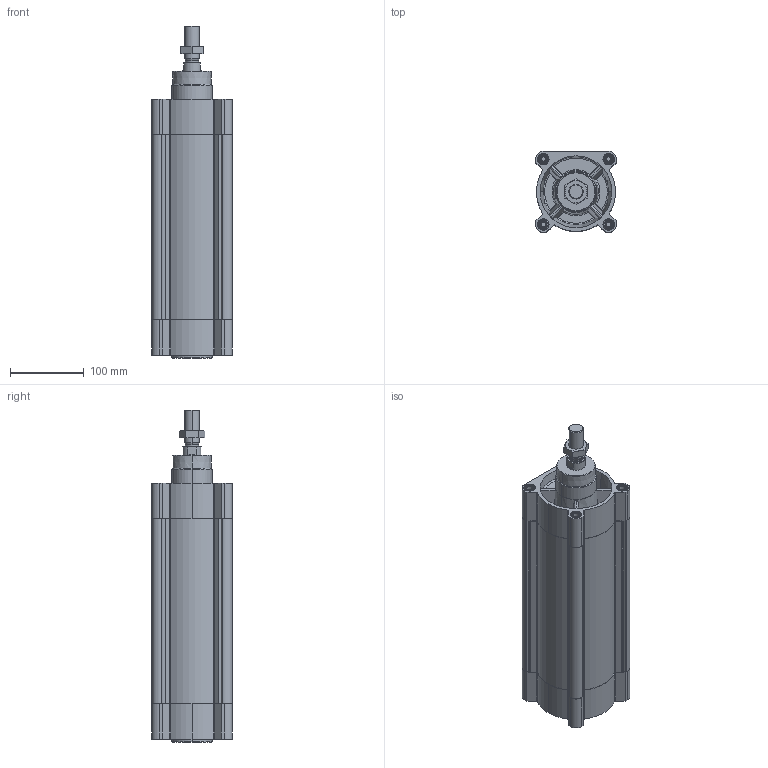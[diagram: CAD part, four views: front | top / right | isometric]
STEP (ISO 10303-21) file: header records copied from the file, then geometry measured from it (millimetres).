
FILE_DESCRIPTION (( 'STEP AP203' ), '1' );
FILE_NAME ('CPME100-210-PR10.STEP', '2024-09-19T16:45:32', ( '' ), ( '' ), 'SwSTEP 2.0', 'SolidWorks 2019', '' );
FILE_SCHEMA (( 'CONFIG_CONTROL_DESIGN' ));
Length unit declared in the file: millimetre
Products named in the file (1): CPME100-210-PR10
Bounding box: 110 x 110 x 451.5 mm (x, y, z)
Volume: 1986081 mm3; surface area: 421795 mm2
Topology: 3 solids, 3 shells, 537 faces, 1365 edges, 874 vertices
Faces by surface type: cylinder 206, plane 205, cone 98, torus 28
Entity records: 18896 total; most frequent: CARTESIAN_POINT 5784, DIRECTION 2761, ORIENTED_EDGE 2730, EDGE_CURVE 1365, AXIS2_PLACEMENT_3D 1049, VERTEX_POINT 874, VECTOR 663, LINE 663
